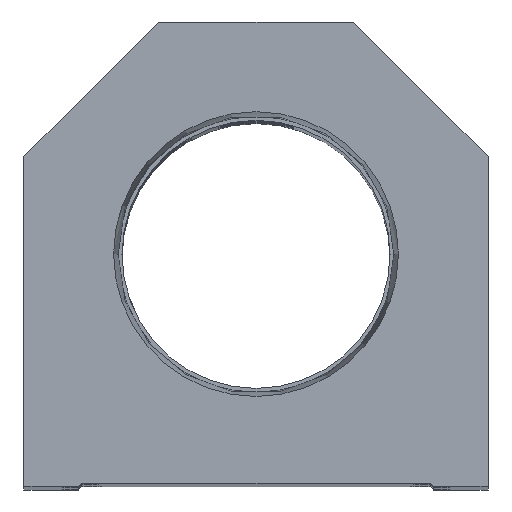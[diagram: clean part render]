
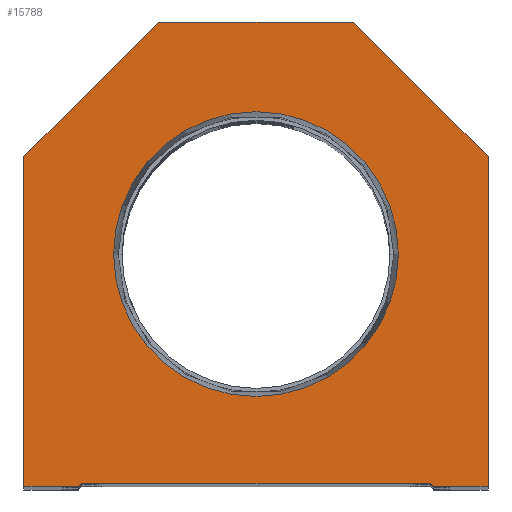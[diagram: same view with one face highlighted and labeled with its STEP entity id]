
A CAD part, top view. The second image highlights one B-rep face of the part: STEP entity #15788.
In plain terms, the highlighted planar face has unit normal (0, 0, 1).
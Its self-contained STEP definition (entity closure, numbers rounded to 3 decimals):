
#149 = DIRECTION ( 'NONE',  ( 1., 0., 0. ) ) ;
#582 = VECTOR ( 'NONE', #7957, 1000. ) ;
#655 = AXIS2_PLACEMENT_3D ( 'NONE', #5009, #11684, #3372 ) ;
#827 = ORIENTED_EDGE ( 'NONE', *, *, #5140, .T. ) ;
#914 = DIRECTION ( 'NONE',  ( 0.707, 0.707, 0. ) ) ;
#1072 = VECTOR ( 'NONE', #17616, 1000. ) ;
#1398 = CARTESIAN_POINT ( 'NONE',  ( 38.1, 54.1, 0. ) ) ;
#1630 = LINE ( 'NONE', #19913, #582 ) ;
#1773 = VECTOR ( 'NONE', #16086, 1000. ) ;
#1886 = VERTEX_POINT ( 'NONE', #7706 ) ;
#2138 = VERTEX_POINT ( 'NONE', #19617 ) ;
#2394 = VERTEX_POINT ( 'NONE', #5012 ) ;
#2442 = CARTESIAN_POINT ( 'NONE',  ( 38.1, 0., 0. ) ) ;
#2623 = DIRECTION ( 'NONE',  ( 1., 0., 0. ) ) ;
#2693 = CARTESIAN_POINT ( 'NONE',  ( 29.1, 0., 0. ) ) ;
#2856 = CARTESIAN_POINT ( 'NONE',  ( -28.6, 0., 0. ) ) ;
#2893 = ORIENTED_EDGE ( 'NONE', *, *, #18581, .T. ) ;
#3372 = DIRECTION ( 'NONE',  ( 1., 0., 0. ) ) ;
#3534 = ORIENTED_EDGE ( 'NONE', *, *, #9833, .T. ) ;
#3849 = VECTOR ( 'NONE', #914, 1000. ) ;
#4191 = ORIENTED_EDGE ( 'NONE', *, *, #9876, .T. ) ;
#4823 = AXIS2_PLACEMENT_3D ( 'NONE', #7319, #16774, #149 ) ;
#5009 = CARTESIAN_POINT ( 'NONE',  ( 0., 0., 0. ) ) ;
#5012 = CARTESIAN_POINT ( 'NONE',  ( 23.374, 38.1, 0. ) ) ;
#5140 = EDGE_CURVE ( 'NONE', #10547, #15375, #6026, .T. ) ;
#5256 = EDGE_CURVE ( 'NONE', #16876, #17480, #7552, .T. ) ;
#5916 = CARTESIAN_POINT ( 'NONE',  ( 16., 76.2, 0. ) ) ;
#6026 = LINE ( 'NONE', #13920, #1072 ) ;
#6116 = DIRECTION ( 'NONE',  ( 1., 0., 0. ) ) ;
#6438 = FACE_OUTER_BOUND ( 'NONE', #17113, .T. ) ;
#6755 = ORIENTED_EDGE ( 'NONE', *, *, #15670, .T. ) ;
#6778 = CARTESIAN_POINT ( 'NONE',  ( 0., 38.1, 0. ) ) ;
#7141 = LINE ( 'NONE', #13837, #7473 ) ;
#7173 = VECTOR ( 'NONE', #16536, 1000. ) ;
#7272 = VERTEX_POINT ( 'NONE', #2442 ) ;
#7319 = CARTESIAN_POINT ( 'NONE',  ( 0., 38.1, 0. ) ) ;
#7438 = DIRECTION ( 'NONE',  ( -1., 0., 0. ) ) ;
#7473 = VECTOR ( 'NONE', #8891, 1000. ) ;
#7527 = LINE ( 'NONE', #2856, #18798 ) ;
#7552 = LINE ( 'NONE', #10840, #3849 ) ;
#7706 = CARTESIAN_POINT ( 'NONE',  ( -38.1, 54.1, 0. ) ) ;
#7957 = DIRECTION ( 'NONE',  ( 0.707, -0.707, 0. ) ) ;
#8419 = CARTESIAN_POINT ( 'NONE',  ( 28.6, 0.5, 0. ) ) ;
#8665 = ORIENTED_EDGE ( 'NONE', *, *, #12031, .T. ) ;
#8742 = VECTOR ( 'NONE', #7438, 1000. ) ;
#8797 = ORIENTED_EDGE ( 'NONE', *, *, #18127, .F. ) ;
#8891 = DIRECTION ( 'NONE',  ( -0.707, -0.707, 0. ) ) ;
#9232 = EDGE_CURVE ( 'NONE', #15375, #12618, #10717, .T. ) ;
#9833 = EDGE_CURVE ( 'NONE', #16879, #7272, #17860, .T. ) ;
#9876 = EDGE_CURVE ( 'NONE', #7272, #10547, #10084, .T. ) ;
#9966 = DIRECTION ( 'NONE',  ( 1., 0., 0. ) ) ;
#10077 = AXIS2_PLACEMENT_3D ( 'NONE', #6778, #18275, #9966 ) ;
#10084 = LINE ( 'NONE', #13159, #7173 ) ;
#10547 = VERTEX_POINT ( 'NONE', #1398 ) ;
#10717 = LINE ( 'NONE', #5916, #8742 ) ;
#10840 = CARTESIAN_POINT ( 'NONE',  ( -14.55, 14.55, 0. ) ) ;
#11684 = DIRECTION ( 'NONE',  ( 0., 0., 1. ) ) ;
#12031 = EDGE_CURVE ( 'NONE', #12618, #1886, #7141, .T. ) ;
#12441 = VECTOR ( 'NONE', #17543, 1000. ) ;
#12618 = VERTEX_POINT ( 'NONE', #13709 ) ;
#12930 = ORIENTED_EDGE ( 'NONE', *, *, #20981, .T. ) ;
#13159 = CARTESIAN_POINT ( 'NONE',  ( 38.1, 0., 0. ) ) ;
#13709 = CARTESIAN_POINT ( 'NONE',  ( -16., 76.2, 0. ) ) ;
#13837 = CARTESIAN_POINT ( 'NONE',  ( -38.1, 54.1, 0. ) ) ;
#13920 = CARTESIAN_POINT ( 'NONE',  ( 38.1, 54.1, 0. ) ) ;
#13940 = EDGE_CURVE ( 'NONE', #16606, #16879, #1630, .T. ) ;
#14466 = CARTESIAN_POINT ( 'NONE',  ( 16., 76.2, 0. ) ) ;
#15375 = VERTEX_POINT ( 'NONE', #14466 ) ;
#15556 = EDGE_CURVE ( 'NONE', #15752, #2394, #18461, .T. ) ;
#15670 = EDGE_CURVE ( 'NONE', #2138, #16876, #7527, .T. ) ;
#15752 = VERTEX_POINT ( 'NONE', #19922 ) ;
#15788 = ADVANCED_FACE ( 'NONE', ( #21411, #6438 ), #21527, .T. ) ;
#15847 = CARTESIAN_POINT ( 'NONE',  ( -28.6, 0.5, 0. ) ) ;
#16086 = DIRECTION ( 'NONE',  ( 0., -1., 0. ) ) ;
#16381 = ORIENTED_EDGE ( 'NONE', *, *, #5256, .T. ) ;
#16536 = DIRECTION ( 'NONE',  ( 0., 1., 0. ) ) ;
#16606 = VERTEX_POINT ( 'NONE', #8419 ) ;
#16653 = ORIENTED_EDGE ( 'NONE', *, *, #15556, .F. ) ;
#16774 = DIRECTION ( 'NONE',  ( 0., 0., 1. ) ) ;
#16876 = VERTEX_POINT ( 'NONE', #17232 ) ;
#16879 = VERTEX_POINT ( 'NONE', #2693 ) ;
#17113 = EDGE_LOOP ( 'NONE', ( #6755, #16381, #12930, #21399, #3534, #4191, #827, #21235, #8665, #2893 ) ) ;
#17232 = CARTESIAN_POINT ( 'NONE',  ( -29.1, 0., 0. ) ) ;
#17480 = VERTEX_POINT ( 'NONE', #15847 ) ;
#17543 = DIRECTION ( 'NONE',  ( 1., 0., 0. ) ) ;
#17616 = DIRECTION ( 'NONE',  ( -0.707, 0.707, 0. ) ) ;
#17711 = LINE ( 'NONE', #21008, #21081 ) ;
#17860 = LINE ( 'NONE', #21260, #12441 ) ;
#18127 = EDGE_CURVE ( 'NONE', #2394, #15752, #19902, .T. ) ;
#18165 = EDGE_LOOP ( 'NONE', ( #8797, #16653 ) ) ;
#18275 = DIRECTION ( 'NONE',  ( 0., 0., 1. ) ) ;
#18461 = CIRCLE ( 'NONE', #4823, 23.374 ) ;
#18581 = EDGE_CURVE ( 'NONE', #1886, #2138, #20694, .T. ) ;
#18798 = VECTOR ( 'NONE', #2623, 1000. ) ;
#19150 = CARTESIAN_POINT ( 'NONE',  ( -38.1, 0., 0. ) ) ;
#19617 = CARTESIAN_POINT ( 'NONE',  ( -38.1, 0., 0. ) ) ;
#19902 = CIRCLE ( 'NONE', #10077, 23.374 ) ;
#19913 = CARTESIAN_POINT ( 'NONE',  ( 14.55, 14.55, 0. ) ) ;
#19922 = CARTESIAN_POINT ( 'NONE',  ( -23.374, 38.1, 0. ) ) ;
#20694 = LINE ( 'NONE', #19150, #1773 ) ;
#20981 = EDGE_CURVE ( 'NONE', #17480, #16606, #17711, .T. ) ;
#21008 = CARTESIAN_POINT ( 'NONE',  ( -28.6, 0.5, 0. ) ) ;
#21081 = VECTOR ( 'NONE', #6116, 1000. ) ;
#21235 = ORIENTED_EDGE ( 'NONE', *, *, #9232, .T. ) ;
#21260 = CARTESIAN_POINT ( 'NONE',  ( 28.6, 0., 0. ) ) ;
#21399 = ORIENTED_EDGE ( 'NONE', *, *, #13940, .T. ) ;
#21411 = FACE_BOUND ( 'NONE', #18165, .T. ) ;
#21527 = PLANE ( 'NONE',  #655 ) ;
